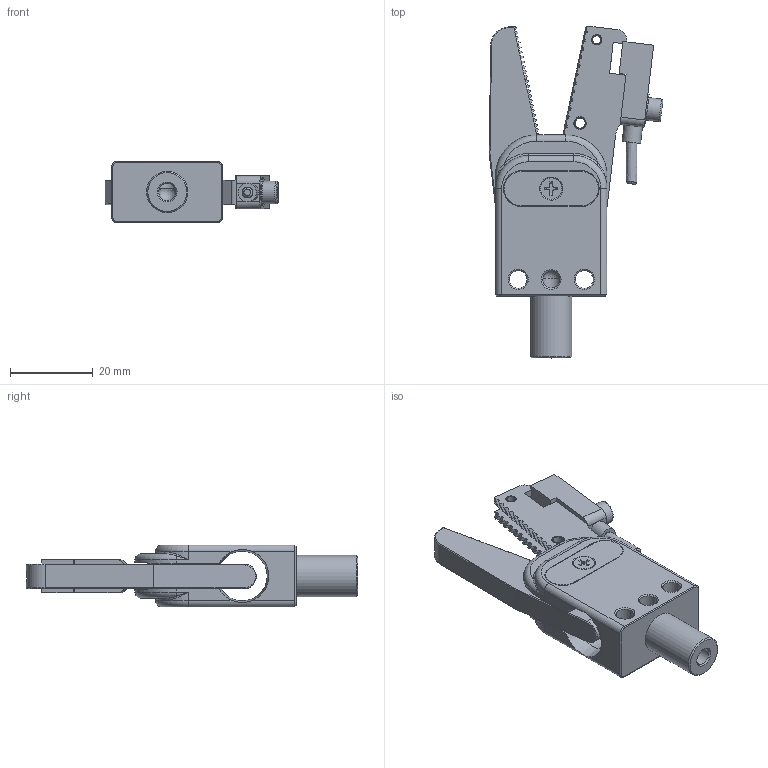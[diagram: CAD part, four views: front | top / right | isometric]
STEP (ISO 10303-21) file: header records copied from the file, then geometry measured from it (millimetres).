
FILE_DESCRIPTION(/* description */ (''),/* implementation_level */ '2;1');
FILE_NAME(/* name */ 'GR10D-12-CP.stp',/* time_stamp */ '2023-03-08T11:30:02+08:00',/* author */ (''),/* organization */ (''),/* preprocessor_version */ 'ST-DEVELOPER v16',/* originating_system */ 'SIEMENS PLM Software NX 10.0',/* authorisation */ '');
FILE_SCHEMA (('AUTOMOTIVE_DESIGN { 1 0 10303 214 3 1 1 1 }'));
Length unit declared in the file: millimetre
Products named in the file (1): Admi115498B06ipf
Bounding box: 42.07 x 80.38 x 15 mm (x, y, z)
Volume: 15660.2 mm3; surface area: 10079.8 mm2
Topology: 1 solids, 9 shells, 930 faces, 2336 edges, 1416 vertices
Faces by surface type: plane 755, cylinder 83, cone 60, bspline 17, torus 14, sphere 1
Full cylindrical faces by diameter (mm): 2.2 x2, 2.5 x4, 3 x6, 3.2 x1, 3.4 x1, 3.5 x1, 4.2 x2, 4.3 x3, 4.5 x1, 5.2 x1, 5.5 x1, 7 x1, 10 x1, 12 x1
Entity records: 34010 total; most frequent: CARTESIAN_POINT 5996, ORIENTED_EDGE 4504, DIRECTION 4205, EDGE_CURVE 2252, LINE 1825, VECTOR 1825, VERTEX_POINT 1389, AXIS2_PLACEMENT_3D 1190
